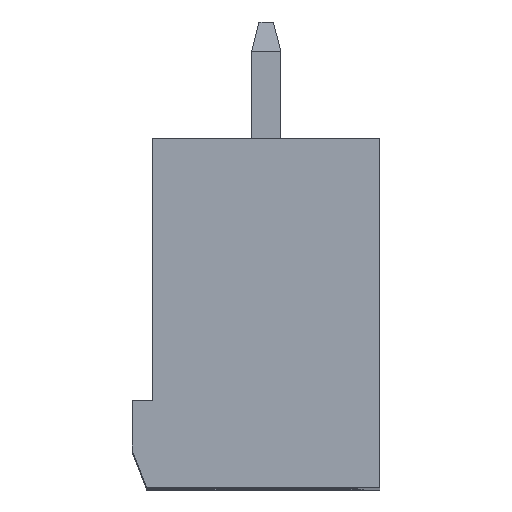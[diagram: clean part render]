
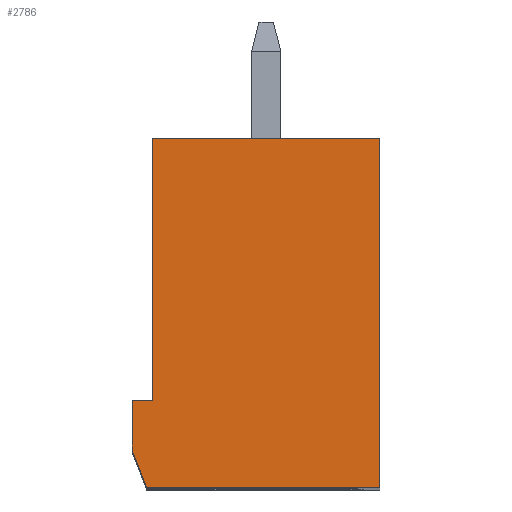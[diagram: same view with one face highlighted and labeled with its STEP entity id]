
A CAD part, top view. The second image highlights one B-rep face of the part: STEP entity #2786.
In plain terms, the highlighted planar face has unit normal (0, 0, 1).
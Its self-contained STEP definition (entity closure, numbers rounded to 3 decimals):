
#2786=ADVANCED_FACE('',(#14481),#14483,.T.);
#14481=FACE_BOUND('',#14482,.T.);
#14482=EDGE_LOOP('',(#20232,#20233,#20234,#20235,#20236,#20237,#20238));
#14483=PLANE('',#14484);
#14484=AXIS2_PLACEMENT_3D('',#14485,#14486,#14487);
#14485=CARTESIAN_POINT('',(0.,0.,35.56));
#14486=DIRECTION('',(0.,0.,1.));
#14487=DIRECTION('',(-1.,0.,0.));
#20232=ORIENTED_EDGE('',*,*,#23805,.F.);
#20233=ORIENTED_EDGE('',*,*,#23752,.F.);
#20234=ORIENTED_EDGE('',*,*,#23725,.F.);
#20235=ORIENTED_EDGE('',*,*,#23722,.F.);
#20236=ORIENTED_EDGE('',*,*,#23719,.F.);
#20237=ORIENTED_EDGE('',*,*,#23862,.T.);
#20238=ORIENTED_EDGE('',*,*,#22656,.F.);
#22656=EDGE_CURVE('',#24966,#24968,#24969,.T.);
#23719=EDGE_CURVE('',#26782,#26784,#26785,.T.);
#23722=EDGE_CURVE('',#26784,#26789,#26790,.T.);
#23725=EDGE_CURVE('',#26789,#26794,#26795,.T.);
#23752=EDGE_CURVE('',#26794,#26847,#26848,.T.);
#23805=EDGE_CURVE('',#26847,#24966,#26937,.T.);
#23862=EDGE_CURVE('',#26782,#24968,#27034,.T.);
#24966=VERTEX_POINT('',#28773);
#24968=VERTEX_POINT('',#28777);
#24969=LINE('',#28778,#28779);
#26782=VERTEX_POINT('',#44400);
#26784=VERTEX_POINT('',#44404);
#26785=LINE('',#44405,#44406);
#26789=VERTEX_POINT('',#44415);
#26790=LINE('',#44416,#44417);
#26794=VERTEX_POINT('',#44426);
#26795=LINE('',#44427,#44428);
#26847=VERTEX_POINT('',#44533);
#26848=LINE('',#44534,#44535);
#26937=LINE('',#45218,#45219);
#27034=LINE('',#45916,#45917);
#28773=CARTESIAN_POINT('',(3.9,0.,35.56));
#28777=CARTESIAN_POINT('',(-4.1,0.,35.56));
#28778=CARTESIAN_POINT('',(3.9,0.,35.56));
#28779=VECTOR('',#28780,1.);
#28780=DIRECTION('',(-1.,0.,0.));
#44400=CARTESIAN_POINT('',(-4.6,1.3,35.56));
#44404=CARTESIAN_POINT('',(-4.6,3.,35.56));
#44405=CARTESIAN_POINT('',(-4.6,1.3,35.56));
#44406=VECTOR('',#44407,1.);
#44407=DIRECTION('',(0.,1.,0.));
#44415=CARTESIAN_POINT('',(-3.9,3.,35.56));
#44416=CARTESIAN_POINT('',(-4.6,3.,35.56));
#44417=VECTOR('',#44418,1.);
#44418=DIRECTION('',(1.,0.,0.));
#44426=CARTESIAN_POINT('',(-3.9,12.,35.56));
#44427=CARTESIAN_POINT('',(-3.9,3.,35.56));
#44428=VECTOR('',#44429,1.);
#44429=DIRECTION('',(0.,1.,0.));
#44533=CARTESIAN_POINT('',(3.9,12.,35.56));
#44534=CARTESIAN_POINT('',(-3.9,12.,35.56));
#44535=VECTOR('',#44536,1.);
#44536=DIRECTION('',(1.,0.,0.));
#45218=CARTESIAN_POINT('',(3.9,12.,35.56));
#45219=VECTOR('',#45220,1.);
#45220=DIRECTION('',(0.,-1.,0.));
#45916=CARTESIAN_POINT('',(-4.6,1.3,35.56));
#45917=VECTOR('',#45918,1.);
#45918=DIRECTION('',(0.359,-0.933,0.));
